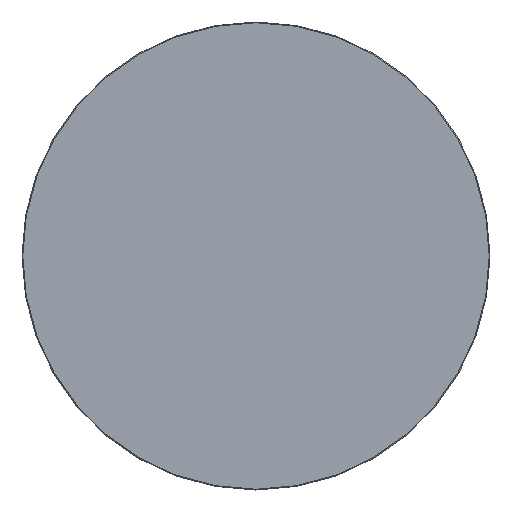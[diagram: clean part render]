
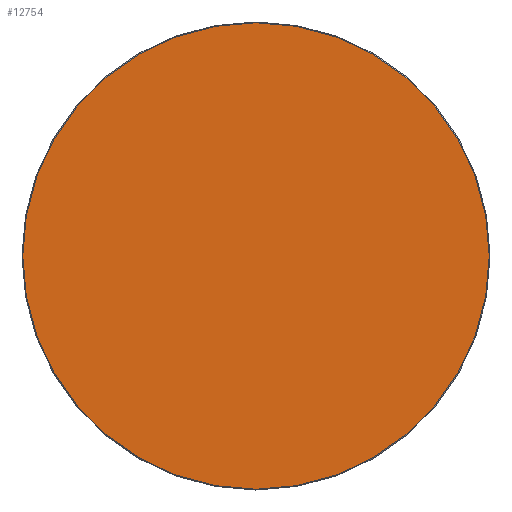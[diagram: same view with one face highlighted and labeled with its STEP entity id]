
A CAD part, top view. The second image highlights one B-rep face of the part: STEP entity #12754.
In plain terms, the highlighted planar face has unit normal (0, 0, 1).
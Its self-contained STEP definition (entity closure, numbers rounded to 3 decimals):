
#12679=CARTESIAN_POINT('',(0.,0.,20.));
#12680=DIRECTION('',(1.,0.,0.));
#12681=DIRECTION('',(0.,0.,1.));
#12682=AXIS2_PLACEMENT_3D('',#12679,#12681,#12680);
#12683=PLANE('',#12682);
#12684=CARTESIAN_POINT('',(-0.5,-448.5,20.));
#12685=VERTEX_POINT('',#12684);
#12686=CARTESIAN_POINT('',(0.5,-448.5,20.));
#12687=VERTEX_POINT('',#12686);
#12688=CARTESIAN_POINT('',(-0.5,-448.5,20.));
#12689=DIRECTION('',(1.,0.,0.));
#12690=VECTOR('',#12689,1.);
#12691=LINE('',#12688,#12690);
#12692=EDGE_CURVE('',#12685,#12687,#12691,.T.);
#12693=ORIENTED_EDGE('E105',*,*,#12692,.T.);
#12694=CARTESIAN_POINT('',(448.5,-0.5,20.));
#12695=VERTEX_POINT('',#12694);
#12696=CARTESIAN_POINT('',(0.5,-0.5,20.));
#12697=DIRECTION('',(0.,-1.,0.));
#12698=DIRECTION('',(0.,0.,1.));
#12699=AXIS2_PLACEMENT_3D('',#12696,#12698,#12697);
#12700=CIRCLE('',#12699,448.);
#12701=EDGE_CURVE('',#12687,#12695,#12700,.T.);
#12702=ORIENTED_EDGE('E107',*,*,#12701,.T.);
#12703=CARTESIAN_POINT('',(448.5,0.5,20.));
#12704=VERTEX_POINT('',#12703);
#12705=CARTESIAN_POINT('',(448.5,-0.5,20.));
#12706=DIRECTION('',(0.,1.,0.));
#12707=VECTOR('',#12706,1.);
#12708=LINE('',#12705,#12707);
#12709=EDGE_CURVE('',#12695,#12704,#12708,.T.);
#12710=ORIENTED_EDGE('E109',*,*,#12709,.T.);
#12711=CARTESIAN_POINT('',(0.5,448.5,20.));
#12712=VERTEX_POINT('',#12711);
#12713=CARTESIAN_POINT('',(0.5,0.5,20.));
#12714=DIRECTION('',(1.,0.,0.));
#12715=DIRECTION('',(0.,0.,1.));
#12716=AXIS2_PLACEMENT_3D('',#12713,#12715,#12714);
#12717=CIRCLE('',#12716,448.);
#12718=EDGE_CURVE('',#12704,#12712,#12717,.T.);
#12719=ORIENTED_EDGE('E111',*,*,#12718,.T.);
#12720=CARTESIAN_POINT('',(-0.5,448.5,20.));
#12721=VERTEX_POINT('',#12720);
#12722=CARTESIAN_POINT('',(0.5,448.5,20.));
#12723=DIRECTION('',(-1.,0.,0.));
#12724=VECTOR('',#12723,1.);
#12725=LINE('',#12722,#12724);
#12726=EDGE_CURVE('',#12712,#12721,#12725,.T.);
#12727=ORIENTED_EDGE('E113',*,*,#12726,.T.);
#12728=CARTESIAN_POINT('',(-448.5,0.5,20.));
#12729=VERTEX_POINT('',#12728);
#12730=CARTESIAN_POINT('',(-0.5,0.5,20.));
#12731=DIRECTION('',(0.,1.,0.));
#12732=DIRECTION('',(0.,0.,1.));
#12733=AXIS2_PLACEMENT_3D('',#12730,#12732,#12731);
#12734=CIRCLE('',#12733,448.);
#12735=EDGE_CURVE('',#12721,#12729,#12734,.T.);
#12736=ORIENTED_EDGE('E115',*,*,#12735,.T.);
#12737=CARTESIAN_POINT('',(-448.5,-0.5,20.));
#12738=VERTEX_POINT('',#12737);
#12739=CARTESIAN_POINT('',(-448.5,0.5,20.));
#12740=DIRECTION('',(0.,-1.,0.));
#12741=VECTOR('',#12740,1.);
#12742=LINE('',#12739,#12741);
#12743=EDGE_CURVE('',#12729,#12738,#12742,.T.);
#12744=ORIENTED_EDGE('E117',*,*,#12743,.T.);
#12745=CARTESIAN_POINT('',(-0.5,-0.5,20.));
#12746=DIRECTION('',(-1.,0.,0.));
#12747=DIRECTION('',(0.,0.,1.));
#12748=AXIS2_PLACEMENT_3D('',#12745,#12747,#12746);
#12749=CIRCLE('',#12748,448.);
#12750=EDGE_CURVE('',#12738,#12685,#12749,.T.);
#12751=ORIENTED_EDGE('E119',*,*,#12750,.T.);
#12752=EDGE_LOOP('',(#12693,#12702,#12710,#12719,#12727,#12736,#12744,#12751));
#12753=FACE_OUTER_BOUND('',#12752,.T.);
#12754=ADVANCED_FACE('F2',(#12753),#12683,.T.);
